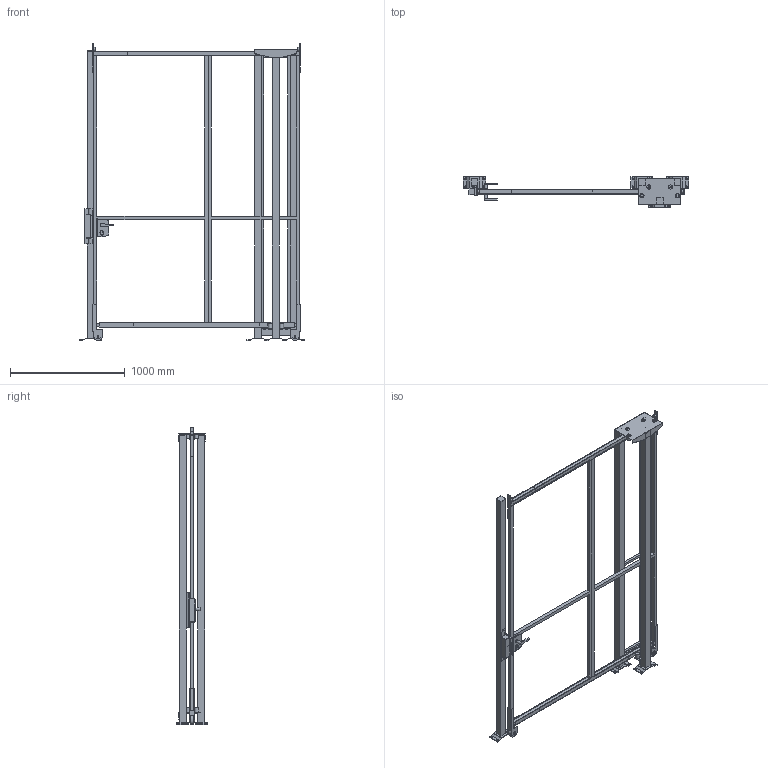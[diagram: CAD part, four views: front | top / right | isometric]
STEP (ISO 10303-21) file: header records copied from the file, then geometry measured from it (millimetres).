
FILE_DESCRIPTION(/* description */ (''),/* implementation_level */ '2;1');
FILE_NAME(/* name */ 'C:\SafeGuarding\ELABORATI\KLADKOUGAMMA_2025-03-21-11-32-57.stp',/* time_stamp */ '2025-03-21T11:33:01+01:00',/* author */ ('admin'),/* organization */ (''),/* preprocessor_version */ 'ST-DEVELOPER v18.1',/* originating_system */ 'AutoCAD Mechanical',/* authorisation */ '');
FILE_SCHEMA (('AUTOMOTIVE_DESIGN { 1 0 10303 214 3 1 1 }'));
Length unit declared in the file: millimetre
Products named in the file (5): Product; VFPA.REPE30.08002400; VFPA.REPE30.10002400; VFPA.REPE2002502400; P_VFMA.V260SDU.2520
Assembly tree (7 placements, depth 2):
  Product
    VFPA.REPE30.08002400
    VFPA.REPE30.10002400
    P_VFMA.V260SDU.2520  x4
    VFPA.REPE2002502400
Bounding box: 1961.91 x 264 x 2590.02 mm (x, y, z)
Volume: 56183157.4 mm3; surface area: 7085888.9 mm2
Topology: 55 solids, 55 shells, 554 faces, 1647 edges, 1550 vertices
Faces by surface type: plane 476, cylinder 74, bspline 4
Full cylindrical faces by diameter (mm): 9 x4, 11 x16, 13 x4, 18 x1, 25 x2, 25.398 x2, 30 x6, 36 x8, 80 x2
Entity records: 16807 total; most frequent: CARTESIAN_POINT 4391, DIRECTION 2471, ORIENTED_EDGE 2206, LINE 1127, VECTOR 1127, EDGE_CURVE 1103, VERTEX_POINT 742, AXIS2_PLACEMENT_3D 672
